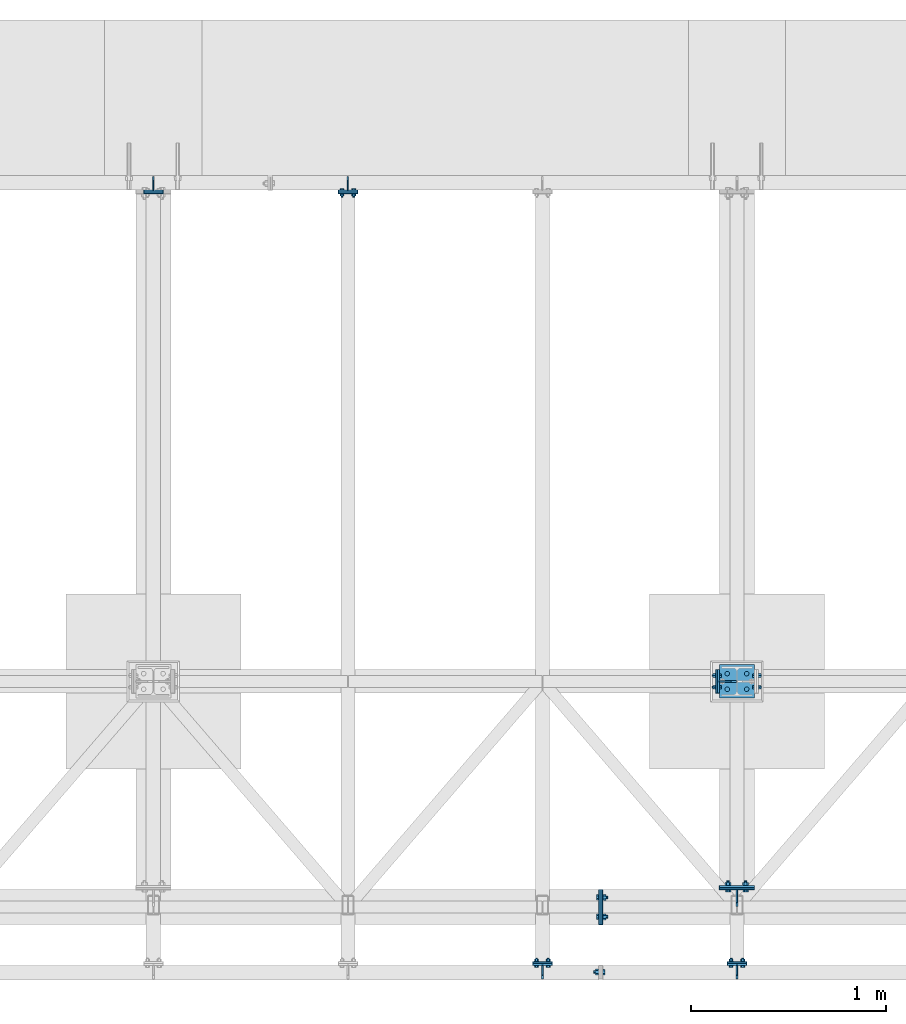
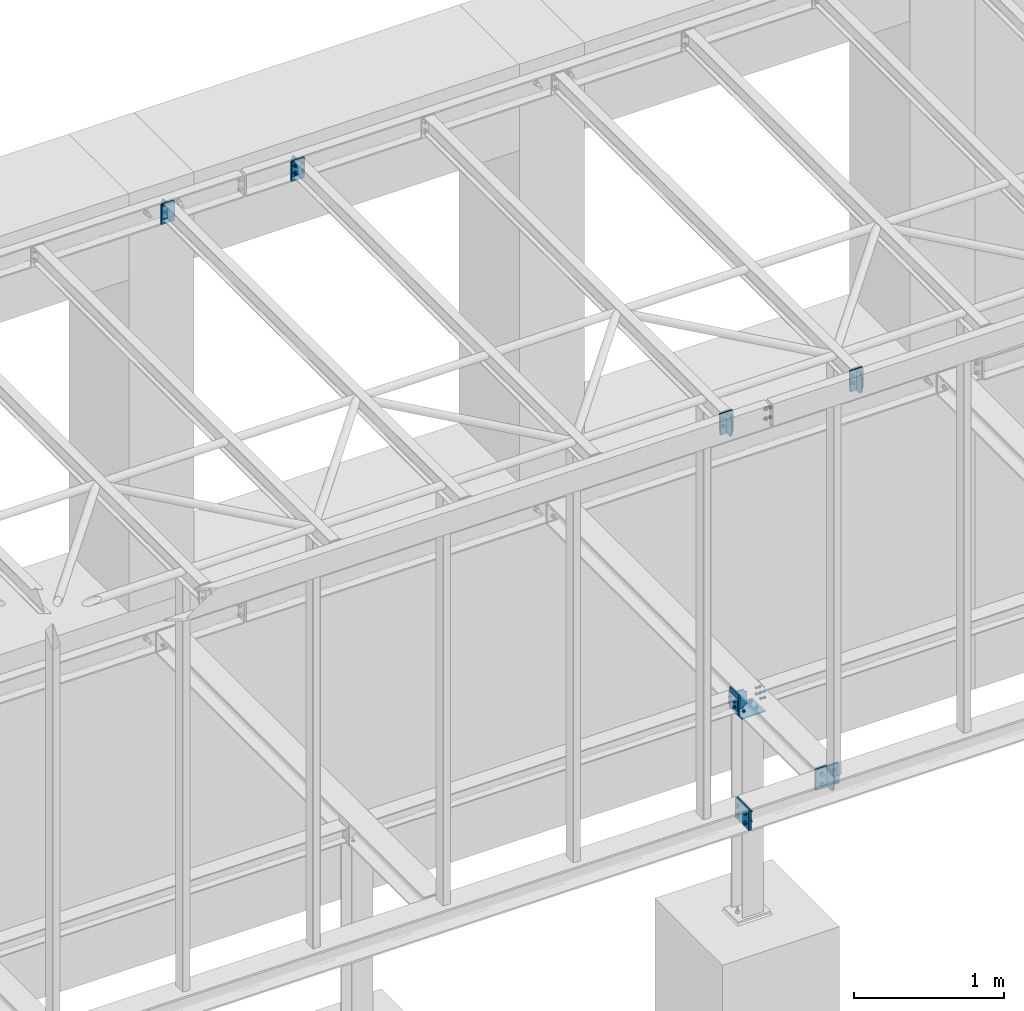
# One storey, part 16 of 23: 21 discrete accessories, 9 mechanical fasteners, 13 elements without a shape of their own.
"""IFC2X3 building model written with IfcOpenShell, lengths in millimetres."""

from ifc_helpers import new_model, si_unit, frame, frame_2d, origin_with_axes, origin_2d_with_axis, place, context, subcontext, project, spatial, polyline, circle_curve, parameter, trimmed, segment, composite_curve, circle, outline, extrude, source, transform, mapped, material, type_object, element, aggregate, save


model = new_model("IFC2X3")

# Units and contexts
model_context = context("Model", 3, precision=1e-05, world=origin_with_axes())
body_context = subcontext(model_context, "Body", "Model", "MODEL_VIEW")
ifc_project = project(units=[si_unit("LENGTHUNIT", "METRE", prefix="MILLI"), si_unit("AREAUNIT", "SQUARE_METRE"), si_unit("VOLUMEUNIT", "CUBIC_METRE"), si_unit("MASSUNIT", "GRAM", prefix="KILO"), si_unit("TIMEUNIT", "SECOND"), si_unit("PLANEANGLEUNIT", "RADIAN"), si_unit("SOLIDANGLEUNIT", "STERADIAN"), si_unit("THERMODYNAMICTEMPERATUREUNIT", "DEGREE_CELSIUS"), si_unit("LUMINOUSINTENSITYUNIT", "LUMEN")], contexts=[model_context])

# Site, building, storey
site_placement = place(None, origin_with_axes())
site = spatial("IfcSite", under=ifc_project, at=site_placement, Name="Undefined", CompositionType="ELEMENT")
building_placement = place(site_placement, origin_with_axes())
building = spatial("IfcBuilding", under=site, at=building_placement, Name="Undefined", CompositionType="ELEMENT")
storey_placement = place(building_placement, origin_with_axes())
storey = spatial("IfcBuildingStorey", under=building, at=storey_placement, Name="Undefined", CompositionType="ELEMENT", Elevation=0.0)

# Assembly, discrete accessory
assembly_1_placement = place(storey_placement, origin_with_axes())
assembly_1 = element("IfcElementAssembly", 1, at=assembly_1_placement, inside=storey, Name="Steel Assembly", AssemblyPlace="NOTDEFINED", PredefinedType="RIGID_FRAME")
ifc_material_1 = material(Name="STEEL/S235JR")
discrete_accessory_type_1 = type_object("IfcDiscreteAccessoryType", Name="PLECH")
discrete_accessory_1_placement = place(assembly_1_placement, frame((8345.0, 190.000000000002, -168.0), z_axis=(1.0, 0.0, 0.0), x_axis=(0.0, -1.0, 0.0)))
discrete_accessory_1 = element("IfcDiscreteAccessory", 2, at=discrete_accessory_1_placement, type_object=discrete_accessory_type_1, material=ifc_material_1, Name="PLECH", ObjectType="PL10*164", context=body_context, shape_type="SweptSolid", body=[
    extrude(outline(polyline([(0.0, 0.0), (180.0, 0.0), (180.0, 164.0), (0.0, 164.0), (0.0, 0.0)])), frame((0.0, 0.0, -5.0), z_axis=(0.0, 0.0, 1.0), x_axis=(1.0, 0.0, 0.0)), (0.0, 0.0, 1.0), 10.0),
])
aggregate(assembly_1, [discrete_accessory_1])

assembly_2_placement = place(storey_placement, origin_with_axes())
assembly_2 = element("IfcElementAssembly", 3, at=assembly_2_placement, inside=storey, Name="Steel Assembly", AssemblyPlace="NOTDEFINED", PredefinedType="RIGID_FRAME")
discrete_accessory_2_placement = place(assembly_2_placement, frame((8355.0, 190.000000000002, -168.0), z_axis=(1.0, 0.0, 0.0), x_axis=(0.0, -1.0, 0.0)))
discrete_accessory_2 = element("IfcDiscreteAccessory", 4, at=discrete_accessory_2_placement, type_object=discrete_accessory_type_1, material=ifc_material_1, Name="PLECH", ObjectType="PL10*164", context=body_context, shape_type="SweptSolid", body=[
    extrude(outline(polyline([(0.0, 0.0), (180.0, 0.0), (180.0, 164.0), (0.0, 164.0), (0.0, 0.0)])), frame((0.0, 0.0, -5.0), z_axis=(0.0, 0.0, 1.0), x_axis=(1.0, 0.0, 0.0)), (0.0, 0.0, 1.0), 10.0),
])

assembly_3_placement = place(storey_placement, origin_with_axes())
assembly_3 = element("IfcElementAssembly", 5, at=assembly_3_placement, inside=storey, Name="Steel Assembly", AssemblyPlace="NOTDEFINED", PredefinedType="RIGID_FRAME")
discrete_accessory_3_placement = place(assembly_3_placement, frame((9050.0, -200.0, 3289.5), z_axis=(1.0, 0.0, 0.0), x_axis=(0.0, -1.0, 0.0)))
discrete_accessory_3 = element("IfcDiscreteAccessory", 6, at=discrete_accessory_3_placement, type_object=discrete_accessory_type_1, material=ifc_material_1, Name="PLECH", ObjectType="PL8*70", context=body_context, shape_type="SweptSolid", body=[
    extrude(outline(composite_curve([segment(polyline([(0.0, 0.0), (49.5, 0.0)]), True, "CONTINUOUS"), segment(trimmed(circle_curve(frame_2d((69.5, 0.0), x_axis=(-1.0, 0.0)), 20.0), [parameter(0.0)], [parameter(4.71238898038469)], False, "PARAMETER"), True, "CONTINUOUS"), segment(polyline([(69.5, 20.0), (69.5, 139.0)]), True, "CONTINUOUS"), segment(trimmed(circle_curve(frame_2d((69.5, 159.0), x_axis=(0.0, -1.0)), 20.0), [parameter(0.0)], [parameter(4.71238898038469)], False, "PARAMETER"), True, "CONTINUOUS"), segment(polyline([(49.5, 159.0), (0.0, 159.0), (0.0, 0.0)]), True, "DISCONTINUOUS")], self_intersect=False)), frame((0.0, 0.0, -4.0), z_axis=(0.0, 0.0, 1.0), x_axis=(1.0, 0.0, 0.0)), (0.0, 0.0, 1.0), 8.0),
])

assembly_4_placement = place(storey_placement, origin_with_axes())
assembly_4 = element("IfcElementAssembly", 7, at=assembly_4_placement, inside=storey, Name="Steel Assembly", AssemblyPlace="NOTDEFINED", PredefinedType="RIGID_FRAME")
discrete_accessory_4_placement = place(assembly_4_placement, frame((9000.0, -185.0, 3166.5), z_axis=(0.0, 1.0, 0.0), x_axis=(0.0, 0.0, 1.0)))
discrete_accessory_4 = element("IfcDiscreteAccessory", 8, at=discrete_accessory_4_placement, type_object=discrete_accessory_type_1, material=ifc_material_1, Name="PLECH", ObjectType="PL10*100", context=body_context, shape_type="SweptSolid", body=[
    extrude(outline(polyline([(0.0, 0.0), (127.0, 0.0), (127.0, 100.0), (-9.09494701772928e-13, 100.0), (0.0, 0.0)])), frame((0.0, 0.0, -5.0), z_axis=(0.0, 0.0, 1.0), x_axis=(1.0, 0.0, 0.0)), (0.0, 0.0, 1.0), 10.0),
])
aggregate(assembly_4, [discrete_accessory_4])

# Discrete accessory
discrete_accessory_5_placement = place(assembly_3_placement, frame((9000.0, -195.0, 3127.5), z_axis=(0.0, 1.0, 0.0), x_axis=(0.0, 0.0, 1.0)))
discrete_accessory_5 = element("IfcDiscreteAccessory", 9, at=discrete_accessory_5_placement, type_object=discrete_accessory_type_1, material=ifc_material_1, Name="PLECH", ObjectType="PL10*100", context=body_context, shape_type="SweptSolid", body=[
    extrude(outline(polyline([(0.0, 0.0), (166.000015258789, 0.0), (166.000015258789, 100.0), (-9.09494701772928e-13, 100.0), (0.0, 0.0)])), frame((0.0, 0.0, -5.0), z_axis=(0.0, 0.0, 1.0), x_axis=(1.0, 0.0, 0.0)), (0.0, 0.0, 1.0), 10.0),
])

discrete_accessory_6_placement = place(assembly_3_placement, frame((8050.0, -200.0, 3289.5), z_axis=(1.0, 0.0, 0.0), x_axis=(0.0, -1.0, 0.0)))
discrete_accessory_6 = element("IfcDiscreteAccessory", 10, at=discrete_accessory_6_placement, type_object=discrete_accessory_type_1, material=ifc_material_1, Name="PLECH", ObjectType="PL8*70", context=body_context, shape_type="SweptSolid", body=[
    extrude(outline(composite_curve([segment(polyline([(0.0, 0.0), (49.5, 0.0)]), True, "CONTINUOUS"), segment(trimmed(circle_curve(frame_2d((69.5, 0.0), x_axis=(-1.0, 0.0)), 20.0), [parameter(0.0)], [parameter(4.71238898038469)], False, "PARAMETER"), True, "CONTINUOUS"), segment(polyline([(69.5, 20.0), (69.5, 139.0)]), True, "CONTINUOUS"), segment(trimmed(circle_curve(frame_2d((69.5, 159.0), x_axis=(0.0, -1.0)), 20.0), [parameter(0.0)], [parameter(4.71238898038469)], False, "PARAMETER"), True, "CONTINUOUS"), segment(polyline([(49.5, 159.0), (0.0, 159.0), (0.0, 0.0)]), True, "DISCONTINUOUS")], self_intersect=False)), frame((0.0, 0.0, -4.0), z_axis=(0.0, 0.0, 1.0), x_axis=(1.0, 0.0, 0.0)), (0.0, 0.0, 1.0), 8.0),
])

# Assembly, discrete accessory
assembly_5_placement = place(storey_placement, origin_with_axes())
assembly_5 = element("IfcElementAssembly", 11, at=assembly_5_placement, inside=storey, Name="Steel Assembly", AssemblyPlace="NOTDEFINED", PredefinedType="RIGID_FRAME")
discrete_accessory_7_placement = place(assembly_5_placement, frame((8000.0, -185.0, 3166.5), z_axis=(0.0, 1.0, 0.0), x_axis=(0.0, 0.0, 1.0)))
discrete_accessory_7 = element("IfcDiscreteAccessory", 12, at=discrete_accessory_7_placement, type_object=discrete_accessory_type_1, material=ifc_material_1, Name="PLECH", ObjectType="PL10*100", context=body_context, shape_type="SweptSolid", body=[
    extrude(outline(polyline([(0.0, 0.0), (127.0, 0.0), (127.0, 100.0), (-9.09494701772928e-13, 100.0), (0.0, 0.0)])), frame((0.0, 0.0, -5.0), z_axis=(0.0, 0.0, 1.0), x_axis=(1.0, 0.0, 0.0)), (0.0, 0.0, 1.0), 10.0),
])
aggregate(assembly_5, [discrete_accessory_7])

# Discrete accessory
discrete_accessory_8_placement = place(assembly_3_placement, frame((8000.0, -195.0, 3127.5), z_axis=(0.0, 1.0, 0.0), x_axis=(0.0, 0.0, 1.0)))
discrete_accessory_8 = element("IfcDiscreteAccessory", 13, at=discrete_accessory_8_placement, type_object=discrete_accessory_type_1, material=ifc_material_1, Name="PLECH", ObjectType="PL10*100", context=body_context, shape_type="SweptSolid", body=[
    extrude(outline(polyline([(0.0, 0.0), (166.000015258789, 0.0), (166.000015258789, 100.0), (-9.09494701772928e-13, 100.0), (0.0, 0.0)])), frame((0.0, 0.0, -5.0), z_axis=(0.0, 0.0, 1.0), x_axis=(1.0, 0.0, 0.0)), (0.0, 0.0, 1.0), 10.0),
])

# Assembly, discrete accessory
assembly_6_placement = place(storey_placement, origin_with_axes())
assembly_6 = element("IfcElementAssembly", 14, at=assembly_6_placement, inside=storey, Name="Steel Assembly", AssemblyPlace="NOTDEFINED", PredefinedType="RIGID_FRAME")
discrete_accessory_9_placement = place(assembly_6_placement, frame((9140.0, 1346.0, -345.0), z_axis=(0.0, 0.0, 1.0), x_axis=(-1.0, 0.0, 0.0)))
discrete_accessory_9 = element("IfcDiscreteAccessory", 15, at=discrete_accessory_9_placement, type_object=discrete_accessory_type_1, material=ifc_material_1, Name="PLECH", ObjectType="PL10*172", context=body_context, shape_type="SweptSolid", body=[
    extrude(outline(polyline([(0.0, 0.0), (180.0, 0.0), (180.0, 172.0), (0.0, 172.0), (0.0, 0.0)])), frame((0.0, 0.0, -5.0), z_axis=(0.0, 0.0, 1.0), x_axis=(1.0, 0.0, 0.0)), (0.0, 0.0, 1.0), 10.0),
])

# Discrete accessory
discrete_accessory_10_placement = place(assembly_2_placement, frame((8960.0, 195.0, -168.0), z_axis=(0.0, 1.0, 0.0), x_axis=(1.0, 0.0, 0.0)))
discrete_accessory_10 = element("IfcDiscreteAccessory", 16, at=discrete_accessory_10_placement, type_object=discrete_accessory_type_1, material=ifc_material_1, Name="PLECH", ObjectType="PL10*164", context=body_context, shape_type="SweptSolid", body=[
    extrude(outline(polyline([(0.0, 0.0), (180.0, 0.0), (180.0, 164.0), (0.0, 164.0), (0.0, 0.0)])), frame((0.0, 0.0, -5.0), z_axis=(0.0, 0.0, 1.0), x_axis=(1.0, 0.0, 0.0)), (0.0, 0.0, 1.0), 10.0),
])

discrete_accessory_11_placement = place(assembly_2_placement, frame((9050.0, 190.0, -174.0), z_axis=(1.0, 0.0, 0.0), x_axis=(0.0, -1.0, 0.0)))
discrete_accessory_11 = element("IfcDiscreteAccessory", 17, at=discrete_accessory_11_placement, type_object=discrete_accessory_type_1, material=ifc_material_1, Name="PLECH", ObjectType="PL8*86", context=body_context, shape_type="SweptSolid", body=[
    extrude(outline(composite_curve([segment(polyline([(0.0, 0.0), (65.75, 0.0)]), True, "CONTINUOUS"), segment(trimmed(circle_curve(frame_2d((85.75, 0.0), x_axis=(-1.0, 0.0)), 20.0), [parameter(0.0)], [parameter(4.71238898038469)], False, "PARAMETER"), True, "CONTINUOUS"), segment(polyline([(85.75, 20.0), (85.75, 132.0)]), True, "CONTINUOUS"), segment(trimmed(circle_curve(frame_2d((85.75, 152.0), x_axis=(0.0, -1.0)), 20.0), [parameter(0.0)], [parameter(4.71238898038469)], False, "PARAMETER"), True, "CONTINUOUS"), segment(polyline([(65.75, 152.0), (0.0, 152.0), (0.0, 0.0)]), True, "DISCONTINUOUS")], self_intersect=False)), frame((0.0, 0.0, -4.0), z_axis=(0.0, 0.0, 1.0), x_axis=(1.0, 0.0, 0.0)), (0.0, 0.0, 1.0), 8.0),
])

# Assembly, discrete accessories
assembly_7_placement = place(storey_placement, origin_with_axes())
assembly_7 = element("IfcElementAssembly", 18, at=assembly_7_placement, inside=storey, Name="Steel Assembly", AssemblyPlace="NOTDEFINED", PredefinedType="RIGID_FRAME")
discrete_accessory_12_placement = place(assembly_7_placement, frame((8960.0, 205.0, -168.0), z_axis=(0.0, 1.0, 0.0), x_axis=(1.0, 0.0, 0.0)))
discrete_accessory_12 = element("IfcDiscreteAccessory", 19, at=discrete_accessory_12_placement, type_object=discrete_accessory_type_1, material=ifc_material_1, Name="PLECH", ObjectType="PL10*164", context=body_context, shape_type="SweptSolid", body=[
    extrude(outline(polyline([(0.0, 0.0), (180.0, 0.0), (180.0, 164.0), (0.0, 164.0), (0.0, 0.0)])), frame((0.0, 0.0, -5.0), z_axis=(0.0, 0.0, 1.0), x_axis=(1.0, 0.0, 0.0)), (0.0, 0.0, 1.0), 10.0),
])
discrete_accessory_13_placement = place(assembly_7_placement, frame((8960.0, 1260.0, -174.0), z_axis=(0.0, 1.0, 0.0), x_axis=(1.0, 0.0, 0.0)))
discrete_accessory_13 = element("IfcDiscreteAccessory", 20, at=discrete_accessory_13_placement, type_object=discrete_accessory_type_1, material=ifc_material_1, Name="PLECH", ObjectType="PL8*86", context=body_context, shape_type="SweptSolid", body=[
    extrude(outline(composite_curve([segment(polyline([(0.0, 0.0), (60.5, 0.0)]), True, "CONTINUOUS"), segment(trimmed(circle_curve(frame_2d((85.5, 0.0), x_axis=(-1.0, 0.0)), 25.0), [parameter(0.0)], [parameter(4.71238898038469)], False, "PARAMETER"), True, "CONTINUOUS"), segment(polyline([(85.5, 25.0), (85.5, 127.0)]), True, "CONTINUOUS"), segment(trimmed(circle_curve(frame_2d((85.5, 152.0), x_axis=(0.0, -1.0)), 25.0), [parameter(0.0)], [parameter(4.71238898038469)], False, "PARAMETER"), True, "CONTINUOUS"), segment(polyline([(60.5, 152.0), (0.0, 152.0), (0.0, 0.0)]), True, "DISCONTINUOUS")], self_intersect=False)), frame((0.0, 0.0, -4.0), z_axis=(0.0, 0.0, 1.0), x_axis=(1.0, 0.0, 0.0)), (0.0, 0.0, 1.0), 8.0),
])

# Assembly, discrete accessory
assembly_8_placement = place(storey_placement, origin_with_axes())
assembly_8 = element("IfcElementAssembly", 21, at=assembly_8_placement, inside=storey, Name="Steel Assembly", AssemblyPlace="NOTDEFINED", PredefinedType="RIGID_FRAME")
discrete_accessory_14_placement = place(assembly_8_placement, frame((8945.0, 1200.0, -299.0), z_axis=(-1.0, 0.0, 0.0), x_axis=(0.0, 0.0, 1.0)))
discrete_accessory_14 = element("IfcDiscreteAccessory", 22, at=discrete_accessory_14_placement, type_object=discrete_accessory_type_1, material=ifc_material_1, Name="PLECH", ObjectType="PL10*98", context=body_context, shape_type="SweptSolid", body=[
    extrude(outline(polyline([(0.0, 0.0), (98.0, 4.54747350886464e-13), (98.0, 120.0), (0.0, 120.0), (0.0, 0.0)])), frame((0.0, 0.0, -5.0), z_axis=(0.0, 0.0, 1.0), x_axis=(1.0, 0.0, 0.0)), (0.0, 0.0, 1.0), 10.0),
])
aggregate(assembly_8, [discrete_accessory_14])

# Discrete accessory
discrete_accessory_15_placement = place(assembly_7_placement, frame((8955.0, 1200.0, -332.0), z_axis=(-1.0, 0.0, 0.0), x_axis=(0.0, 0.0, 1.0)))
discrete_accessory_15 = element("IfcDiscreteAccessory", 23, at=discrete_accessory_15_placement, type_object=discrete_accessory_type_1, material=ifc_material_1, Name="PLECH", ObjectType="PL10*120", context=body_context, shape_type="SweptSolid", body=[
    extrude(outline(polyline([(0.0, 0.0), (164.0, 4.54747350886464e-13), (164.0, 120.0), (0.0, 120.0), (0.0, 0.0)])), frame((0.0, 0.0, -5.0), z_axis=(0.0, 0.0, 1.0), x_axis=(1.0, 0.0, 0.0)), (0.0, 0.0, 1.0), 10.0),
])

# Assembly, discrete accessory
assembly_9_placement = place(storey_placement, origin_with_axes())
assembly_9 = element("IfcElementAssembly", 24, at=assembly_9_placement, inside=storey, Name="Steel Assembly", AssemblyPlace="NOTDEFINED", PredefinedType="RIGID_FRAME")
discrete_accessory_16_placement = place(assembly_9_placement, frame((7050.0, 3785.0, 3289.5), z_axis=(-1.0, 0.0, 0.0), x_axis=(0.0, 1.0, 0.0)))
discrete_accessory_16 = element("IfcDiscreteAccessory", 25, at=discrete_accessory_16_placement, type_object=discrete_accessory_type_1, material=ifc_material_1, Name="PLECH", ObjectType="PL6*70", context=body_context, shape_type="SweptSolid", body=[
    extrude(outline(composite_curve([segment(polyline([(0.0, 0.0), (49.5, 0.0)]), True, "CONTINUOUS"), segment(trimmed(circle_curve(frame_2d((69.5, 0.0), x_axis=(-1.0, 0.0)), 20.0), [parameter(0.0)], [parameter(4.71238898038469)], False, "PARAMETER"), True, "CONTINUOUS"), segment(polyline([(69.5, 20.0), (69.5, 139.0)]), True, "CONTINUOUS"), segment(trimmed(circle_curve(frame_2d((69.5, 159.0), x_axis=(0.0, -1.0)), 20.0), [parameter(0.0)], [parameter(4.71238898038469)], False, "PARAMETER"), True, "CONTINUOUS"), segment(polyline([(49.5, 159.0), (0.0, 159.0), (0.0, 0.0)]), True, "DISCONTINUOUS")], self_intersect=False)), frame((0.0, 0.0, -3.0), z_axis=(0.0, 0.0, 1.0), x_axis=(1.0, 0.0, 0.0)), (0.0, 0.0, 1.0), 6.0),
])

assembly_10_placement = place(storey_placement, origin_with_axes())
assembly_10 = element("IfcElementAssembly", 26, at=assembly_10_placement, inside=storey, Name="Steel Assembly", AssemblyPlace="NOTDEFINED", PredefinedType="RIGID_FRAME")
discrete_accessory_17_placement = place(assembly_10_placement, frame((7000.0, 3771.0, 3175.0), z_axis=(0.0, 1.0, 0.0), x_axis=(0.0, 0.0, 1.0)))
discrete_accessory_17 = element("IfcDiscreteAccessory", 27, at=discrete_accessory_17_placement, type_object=discrete_accessory_type_1, material=ifc_material_1, Name="PLECH", ObjectType="PL8*100", context=body_context, shape_type="SweptSolid", body=[
    extrude(outline(polyline([(0.0, 0.0), (110.0, 0.0), (110.0, 100.0), (-9.09494701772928e-13, 100.0), (0.0, 0.0)])), frame((0.0, 0.0, -4.0), z_axis=(0.0, 0.0, 1.0), x_axis=(1.0, 0.0, 0.0)), (0.0, 0.0, 1.0), 8.0),
])
aggregate(assembly_10, [discrete_accessory_17])

# Discrete accessory
discrete_accessory_18_placement = place(assembly_9_placement, frame((7000.0, 3780.0, 3128.0), z_axis=(0.0, 1.0, 0.0), x_axis=(0.0, 0.0, 1.0)))
discrete_accessory_18 = element("IfcDiscreteAccessory", 28, at=discrete_accessory_18_placement, type_object=discrete_accessory_type_1, material=ifc_material_1, Name="PLECH", ObjectType="PL10*100", context=body_context, shape_type="SweptSolid", body=[
    extrude(outline(polyline([(0.0, 0.0), (164.0, 4.54747350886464e-13), (164.0, 100.0), (-9.09494701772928e-13, 100.0), (0.0, 0.0)])), frame((0.0, 0.0, -5.0), z_axis=(0.0, 0.0, 1.0), x_axis=(1.0, 0.0, 0.0)), (0.0, 0.0, 1.0), 10.0),
])

# Assembly, discrete accessory
assembly_11_placement = place(storey_placement, origin_with_axes())
assembly_11 = element("IfcElementAssembly", 29, at=assembly_11_placement, inside=storey, Name="Steel Assembly", AssemblyPlace="NOTDEFINED", PredefinedType="RIGID_FRAME")
discrete_accessory_19_placement = place(assembly_11_placement, frame((6050.0, 3785.0, 3289.5), z_axis=(-1.0, 0.0, 0.0), x_axis=(0.0, 1.0, 0.0)))
discrete_accessory_19 = element("IfcDiscreteAccessory", 30, at=discrete_accessory_19_placement, type_object=discrete_accessory_type_1, material=ifc_material_1, Name="PLECH", ObjectType="PL6*70", context=body_context, shape_type="SweptSolid", body=[
    extrude(outline(composite_curve([segment(polyline([(0.0, 0.0), (49.5, 0.0)]), True, "CONTINUOUS"), segment(trimmed(circle_curve(frame_2d((69.5, 0.0), x_axis=(-1.0, 0.0)), 20.0), [parameter(0.0)], [parameter(4.71238898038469)], False, "PARAMETER"), True, "CONTINUOUS"), segment(polyline([(69.5, 20.0), (69.5, 139.0)]), True, "CONTINUOUS"), segment(trimmed(circle_curve(frame_2d((69.5, 159.0), x_axis=(0.0, -1.0)), 20.0), [parameter(0.0)], [parameter(4.71238898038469)], False, "PARAMETER"), True, "CONTINUOUS"), segment(polyline([(49.5, 159.0), (0.0, 159.0), (0.0, 0.0)]), True, "DISCONTINUOUS")], self_intersect=False)), frame((0.0, 0.0, -3.0), z_axis=(0.0, 0.0, 1.0), x_axis=(1.0, 0.0, 0.0)), (0.0, 0.0, 1.0), 6.0),
])

assembly_12_placement = place(storey_placement, origin_with_axes())
assembly_12 = element("IfcElementAssembly", 31, at=assembly_12_placement, inside=storey, Name="Steel Assembly", AssemblyPlace="NOTDEFINED", PredefinedType="RIGID_FRAME")
discrete_accessory_20_placement = place(assembly_12_placement, frame((6000.0, 3771.0, 3175.0), z_axis=(0.0, 1.0, 0.0), x_axis=(0.0, 0.0, 1.0)))
discrete_accessory_20 = element("IfcDiscreteAccessory", 32, at=discrete_accessory_20_placement, type_object=discrete_accessory_type_1, material=ifc_material_1, Name="PLECH", ObjectType="PL8*100", context=body_context, shape_type="SweptSolid", body=[
    extrude(outline(polyline([(0.0, 0.0), (110.0, 0.0), (110.0, 100.0), (-9.09494701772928e-13, 100.0), (0.0, 0.0)])), frame((0.0, 0.0, -4.0), z_axis=(0.0, 0.0, 1.0), x_axis=(1.0, 0.0, 0.0)), (0.0, 0.0, 1.0), 8.0),
])
aggregate(assembly_12, [discrete_accessory_20])

# Discrete accessory
discrete_accessory_21_placement = place(assembly_11_placement, frame((6000.0, 3780.0, 3128.0), z_axis=(0.0, 1.0, 0.0), x_axis=(0.0, 0.0, 1.0)))
discrete_accessory_21 = element("IfcDiscreteAccessory", 33, at=discrete_accessory_21_placement, type_object=discrete_accessory_type_1, material=ifc_material_1, Name="PLECH", ObjectType="PL10*100", context=body_context, shape_type="SweptSolid", body=[
    extrude(outline(polyline([(0.0, 0.0), (164.0, 4.54747350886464e-13), (164.0, 100.0), (-9.09494701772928e-13, 100.0), (0.0, 0.0)])), frame((0.0, 0.0, -5.0), z_axis=(0.0, 0.0, 1.0), x_axis=(1.0, 0.0, 0.0)), (0.0, 0.0, 1.0), 10.0),
])

aggregate(assembly_11, [discrete_accessory_19, discrete_accessory_21])

# Assembly, mechanical fastener
assembly_13_placement = place(storey_placement, origin_with_axes())
assembly_13 = element("IfcElementAssembly", 34, at=assembly_13_placement, inside=storey, Name="Steel Assembly", AssemblyPlace="NOTDEFINED", PredefinedType="RIGID_FRAME")
ifc_material_2 = material(Name="Undefined")
discrete_accessory_type_2 = type_object("IfcDiscreteAccessoryType", Name="Bolt assembly")
shared_shape_1 = source(origin_with_axes(), body_context, "Body", "SweptSolid", [
    extrude(circle(Radius=9.0, at=origin_2d_with_axis()), frame((0.0, -0.1, 0.0), z_axis=(0.0, 1.0, 0.0), x_axis=(1.0, 0.0, 0.0)), (0.0, 0.0, 1.0), 10.1),
    extrude(circle(Radius=9.0, at=origin_2d_with_axis()), frame((0.0, -9.9, 0.0), z_axis=(0.0, 1.0, 0.0), x_axis=(1.0, 0.0, 0.0)), (0.0, 0.0, 1.0), 10.0),
    extrude(outline(polyline([(13.85640646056, 0.0), (6.92820323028, 12.0000000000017), (-6.92820323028, 12.0000000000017), (-13.85640646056, 0.0), (-6.92820323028, -12.0000000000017), (6.92820323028, -12.0000000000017), (13.85640646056, 0.0)])), frame((0.0, -23.0, 0.0), z_axis=(0.0, 1.0, 0.0), x_axis=(1.0, 0.0, 0.0)), (0.0, 0.0, 1.0), 10.0),
    extrude(circle(Radius=8.0, at=origin_2d_with_axis()), frame((0.0, -13.0, 0.0), z_axis=(0.0, 1.0, 0.0), x_axis=(1.0, 0.0, 0.0)), (0.0, 0.0, 1.0), 50.0),
    extrude(circle(Radius=15.0, at=origin_2d_with_axis()), frame((0.0, -13.0, 0.0), z_axis=(0.0, 1.0, 0.0), x_axis=(1.0, 0.0, 0.0)), (0.0, 0.0, 1.0), 3.0),
    extrude(circle(Radius=15.0, at=origin_2d_with_axis()), frame((0.0, 10.0, 0.0), z_axis=(0.0, 1.0, 0.0), x_axis=(1.0, 0.0, 0.0)), (0.0, 0.0, 1.0), 3.0),
    extrude(outline(polyline([(15.4441197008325, 0.0), (7.72205985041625, 13.3750000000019), (-7.72205985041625, 13.3750000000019), (-15.4441197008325, 0.0), (-7.72205985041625, -13.3750000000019), (7.72205985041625, -13.3750000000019), (15.4441197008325, 0.0)])), frame((0.0, 13.0, 0.0), z_axis=(0.0, 1.0, 0.0), x_axis=(1.0, 0.0, 0.0)), (0.0, 0.0, 1.0), 13.0),
])
mechanical_fastener_1_placement = place(assembly_13_placement, frame((8350.0, -234.499999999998, 3210.0), z_axis=(0.0, 0.0, 1.0), x_axis=(0.0, 1.0, 0.0)))
mechanical_fastener_1 = element("IfcMechanicalFastener", 35, at=mechanical_fastener_1_placement, type_object=discrete_accessory_type_2, material=ifc_material_2, Name="Bolt assembly", NominalDiameter=16.0, NominalLength=50.0, context=body_context, shape_type="MappedRepresentation", body=[
    mapped(shared_shape_1, transform((0.0, 0.0, -40.0))),
    mapped(shared_shape_1, transform((0.0, 0.0, 40.0))),
])
aggregate(assembly_13, [mechanical_fastener_1])

# Mechanical fastener
mechanical_fastener_2_placement = place(assembly_2_placement, frame((9005.0, 200.0, -250.0), z_axis=(0.0, 0.0, 1.0), x_axis=(1.0, 0.0, 0.0)))
mechanical_fastener_2 = element("IfcMechanicalFastener", 36, at=mechanical_fastener_2_placement, type_object=discrete_accessory_type_2, material=ifc_material_2, Name="Bolt assembly", NominalDiameter=16.0, NominalLength=50.0, context=body_context, shape_type="MappedRepresentation", body=[
    mapped(shared_shape_1, transform((0.0, 0.0, -40.0))),
    mapped(shared_shape_1, transform((90.0, 0.0, -40.0))),
    mapped(shared_shape_1, transform((0.0, 0.0, 40.0))),
    mapped(shared_shape_1, transform((90.0, 0.0, 40.0))),
])

shared_shape_2 = source(origin_with_axes(), body_context, "Body", "SweptSolid", [
    extrude(circle(Radius=6.5, at=origin_2d_with_axis()), frame((0.0, -13.9, 0.0), z_axis=(0.0, 1.0, 0.0), x_axis=(1.0, 0.0, 0.0)), (0.0, 0.0, 1.0), 14.0),
    extrude(circle(Radius=6.5, at=origin_2d_with_axis()), frame((0.0, -0.1, 0.0), z_axis=(0.0, 1.0, 0.0), x_axis=(1.0, 0.0, 0.0)), (0.0, 0.0, 1.0), 10.1),
    extrude(outline(polyline([(10.39230484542, 0.0), (5.19615242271, 9.00000000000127), (-5.19615242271, 9.00000000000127), (-10.39230484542, 0.0), (-5.19615242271, -9.00000000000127), (5.19615242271, -9.00000000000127), (10.39230484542, 0.0)])), frame((0.0, -24.0, 0.0), z_axis=(0.0, 1.0, 0.0), x_axis=(1.0, 0.0, 0.0)), (0.0, 0.0, 1.0), 7.5),
    extrude(circle(Radius=6.0, at=origin_2d_with_axis()), frame((0.0, -16.5, 0.0), z_axis=(0.0, 1.0, 0.0), x_axis=(1.0, 0.0, 0.0)), (0.0, 0.0, 1.0), 45.0),
    extrude(circle(Radius=12.0, at=origin_2d_with_axis()), frame((0.0, -16.5, 0.0), z_axis=(0.0, 1.0, 0.0), x_axis=(1.0, 0.0, 0.0)), (0.0, 0.0, 1.0), 2.5),
    extrude(circle(Radius=12.0, at=origin_2d_with_axis()), frame((0.0, 10.0, 0.0), z_axis=(0.0, 1.0, 0.0), x_axis=(1.0, 0.0, 0.0)), (0.0, 0.0, 1.0), 2.5),
    extrude(outline(polyline([(10.96965511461, 0.0), (5.484827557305, 9.50000000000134), (-5.484827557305, 9.50000000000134), (-10.96965511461, 0.0), (-5.484827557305, -9.50000000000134), (5.484827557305, -9.50000000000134), (10.96965511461, 0.0)])), frame((0.0, 12.5, 0.0), z_axis=(0.0, 1.0, 0.0), x_axis=(1.0, 0.0, 0.0)), (0.0, 0.0, 1.0), 10.0),
])
mechanical_fastener_3_placement = place(assembly_6_placement, frame((9000.0, 1260.0, -340.0), z_axis=(0.0, 1.0, 0.0), x_axis=(1.0, 0.0, 0.0)))
mechanical_fastener_3 = element("IfcMechanicalFastener", 37, at=mechanical_fastener_3_placement, type_object=discrete_accessory_type_2, material=ifc_material_2, Name="Bolt assembly", NominalDiameter=12.0, NominalLength=45.0, context=body_context, shape_type="MappedRepresentation", body=[
    mapped(shared_shape_2, transform((0.0, 0.0, -40.0))),
    mapped(shared_shape_2, transform((100.0, 0.0, -40.0))),
    mapped(shared_shape_2, transform((0.0, 0.0, 40.0))),
    mapped(shared_shape_2, transform((100.0, 0.0, 40.0))),
])

aggregate(assembly_6, [mechanical_fastener_3, discrete_accessory_9])

shared_shape_3 = source(origin_with_axes(), body_context, "Body", "SweptSolid", [
    extrude(circle(Radius=9.0, at=origin_2d_with_axis()), frame((0.0, -9.9, 0.0), z_axis=(0.0, 1.0, 0.0), x_axis=(1.0, 0.0, 0.0)), (0.0, 0.0, 1.0), 10.0),
    extrude(circle(Radius=9.0, at=origin_2d_with_axis()), frame((0.0, -0.1, 0.0), z_axis=(0.0, 1.0, 0.0), x_axis=(1.0, 0.0, 0.0)), (0.0, 0.0, 1.0), 10.1),
    extrude(outline(polyline([(13.85640646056, 0.0), (6.92820323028, 12.0000000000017), (-6.92820323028, 12.0000000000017), (-13.85640646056, 0.0), (-6.92820323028, -12.0000000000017), (6.92820323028, -12.0000000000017), (13.85640646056, 0.0)])), frame((0.0, -23.0, 0.0), z_axis=(0.0, 1.0, 0.0), x_axis=(1.0, 0.0, 0.0)), (0.0, 0.0, 1.0), 10.0),
    extrude(circle(Radius=8.0, at=origin_2d_with_axis()), frame((0.0, -13.0, 0.0), z_axis=(0.0, 1.0, 0.0), x_axis=(1.0, 0.0, 0.0)), (0.0, 0.0, 1.0), 50.0),
    extrude(circle(Radius=15.0, at=origin_2d_with_axis()), frame((0.0, -13.0, 0.0), z_axis=(0.0, 1.0, 0.0), x_axis=(1.0, 0.0, 0.0)), (0.0, 0.0, 1.0), 3.0),
    extrude(circle(Radius=15.0, at=origin_2d_with_axis()), frame((0.0, 10.0, 0.0), z_axis=(0.0, 1.0, 0.0), x_axis=(1.0, 0.0, 0.0)), (0.0, 0.0, 1.0), 3.0),
    extrude(outline(polyline([(15.4441197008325, 0.0), (7.72205985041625, 13.3750000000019), (-7.72205985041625, 13.3750000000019), (-15.4441197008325, 0.0), (-7.72205985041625, -13.3750000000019), (7.72205985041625, -13.3750000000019), (15.4441197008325, 0.0)])), frame((0.0, 13.0, 0.0), z_axis=(0.0, 1.0, 0.0), x_axis=(1.0, 0.0, 0.0)), (0.0, 0.0, 1.0), 13.0),
])
mechanical_fastener_4_placement = place(assembly_2_placement, frame((8350.0, 150.0, -250.0), z_axis=(0.0, 0.0, 1.0), x_axis=(0.0, -1.0, 0.0)))
mechanical_fastener_4 = element("IfcMechanicalFastener", 38, at=mechanical_fastener_4_placement, type_object=discrete_accessory_type_2, material=ifc_material_2, Name="Bolt assembly", NominalDiameter=16.0, NominalLength=50.0, context=body_context, shape_type="MappedRepresentation", body=[
    mapped(shared_shape_3, transform((0.0, 0.0, -40.0))),
    mapped(shared_shape_3, transform((100.0, 0.0, -40.0))),
    mapped(shared_shape_3, transform((0.0, 0.0, 40.0))),
    mapped(shared_shape_3, transform((100.0, 0.0, 40.0))),
])

aggregate(assembly_2, [mechanical_fastener_4, discrete_accessory_2, mechanical_fastener_2, discrete_accessory_10, discrete_accessory_11])

shared_shape_4 = source(origin_with_axes(), body_context, "Body", "SweptSolid", [
    extrude(circle(Radius=6.5, at=origin_2d_with_axis()), frame((0.0, -0.1, 0.0), z_axis=(0.0, 1.0, 0.0), x_axis=(1.0, 0.0, 0.0)), (0.0, 0.0, 1.0), 10.1),
    extrude(circle(Radius=6.5, at=origin_2d_with_axis()), frame((0.0, -9.9, 0.0), z_axis=(0.0, 1.0, 0.0), x_axis=(1.0, 0.0, 0.0)), (0.0, 0.0, 1.0), 10.0),
    extrude(outline(polyline([(10.96965511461, 0.0), (5.484827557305, 9.50000000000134), (-5.484827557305, 9.50000000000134), (-10.96965511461, 0.0), (-5.484827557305, -9.50000000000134), (5.484827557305, -9.50000000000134), (10.96965511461, 0.0)])), frame((0.0, -20.0, 0.0), z_axis=(0.0, 1.0, 0.0), x_axis=(1.0, 0.0, 0.0)), (0.0, 0.0, 1.0), 7.5),
    extrude(circle(Radius=6.0, at=origin_2d_with_axis()), frame((0.0, -12.5, 0.0), z_axis=(0.0, 1.0, 0.0), x_axis=(1.0, 0.0, 0.0)), (0.0, 0.0, 1.0), 40.0),
    extrude(circle(Radius=12.0, at=origin_2d_with_axis()), frame((0.0, -12.5, 0.0), z_axis=(0.0, 1.0, 0.0), x_axis=(1.0, 0.0, 0.0)), (0.0, 0.0, 1.0), 2.5),
    extrude(circle(Radius=12.0, at=origin_2d_with_axis()), frame((0.0, 10.0, 0.0), z_axis=(0.0, 1.0, 0.0), x_axis=(1.0, 0.0, 0.0)), (0.0, 0.0, 1.0), 2.5),
    extrude(outline(polyline([(10.96965511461, 0.0), (5.484827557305, 9.50000000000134), (-5.484827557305, 9.50000000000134), (-10.96965511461, 0.0), (-5.484827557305, -9.50000000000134), (5.484827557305, -9.50000000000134), (10.96965511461, 0.0)])), frame((0.0, 12.5, 0.0), z_axis=(0.0, 1.0, 0.0), x_axis=(1.0, 0.0, 0.0)), (0.0, 0.0, 1.0), 10.0),
])
mechanical_fastener_5_placement = place(assembly_3_placement, frame((9020.0, -190.0, 3230.0), z_axis=(0.0, 0.0, 1.0), x_axis=(1.0, 0.0, 0.0)))
mechanical_fastener_5 = element("IfcMechanicalFastener", 39, at=mechanical_fastener_5_placement, type_object=discrete_accessory_type_2, material=ifc_material_2, Name="Bolt assembly", NominalDiameter=12.0, NominalLength=40.0, context=body_context, shape_type="MappedRepresentation", body=[
    mapped(shared_shape_4, transform((0.0, 0.0, 30.0))),
    mapped(shared_shape_4, transform((60.0, 0.0, 30.0))),
    mapped(shared_shape_4, transform((0.0, 0.0, -30.0))),
    mapped(shared_shape_4, transform((60.0, 0.0, -30.0))),
])

mechanical_fastener_6_placement = place(assembly_3_placement, frame((8020.0, -190.0, 3230.0), z_axis=(0.0, 0.0, 1.0), x_axis=(1.0, 0.0, 0.0)))
mechanical_fastener_6 = element("IfcMechanicalFastener", 40, at=mechanical_fastener_6_placement, type_object=discrete_accessory_type_2, material=ifc_material_2, Name="Bolt assembly", NominalDiameter=12.0, NominalLength=40.0, context=body_context, shape_type="MappedRepresentation", body=[
    mapped(shared_shape_4, transform((0.0, 0.0, 30.0))),
    mapped(shared_shape_4, transform((60.0, 0.0, 30.0))),
    mapped(shared_shape_4, transform((0.0, 0.0, -30.0))),
    mapped(shared_shape_4, transform((60.0, 0.0, -30.0))),
])

aggregate(assembly_3, [mechanical_fastener_5, discrete_accessory_3, discrete_accessory_5, mechanical_fastener_6, discrete_accessory_6, discrete_accessory_8])

shared_shape_5 = source(origin_with_axes(), body_context, "Body", "SweptSolid", [
    extrude(circle(Radius=6.5, at=origin_2d_with_axis()), frame((0.0, -4.1, 0.0), z_axis=(0.0, 1.0, 0.0), x_axis=(1.0, 0.0, 0.0)), (0.0, 0.0, 1.0), 10.1),
    extrude(circle(Radius=6.5, at=origin_2d_with_axis()), frame((0.0, -13.9, 0.0), z_axis=(0.0, 1.0, 0.0), x_axis=(1.0, 0.0, 0.0)), (0.0, 0.0, 1.0), 10.0),
    extrude(outline(polyline([(10.39230484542, 0.0), (5.19615242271, 9.00000000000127), (-5.19615242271, 9.00000000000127), (-10.39230484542, 0.0), (-5.19615242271, -9.00000000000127), (5.19615242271, -9.00000000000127), (10.39230484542, 0.0)])), frame((0.0, -24.0, 0.0), z_axis=(0.0, 1.0, 0.0), x_axis=(1.0, 0.0, 0.0)), (0.0, 0.0, 1.0), 7.5),
    extrude(circle(Radius=6.0, at=origin_2d_with_axis()), frame((0.0, -16.5, 0.0), z_axis=(0.0, 1.0, 0.0), x_axis=(1.0, 0.0, 0.0)), (0.0, 0.0, 1.0), 40.0),
    extrude(circle(Radius=12.0, at=origin_2d_with_axis()), frame((0.0, -16.5, 0.0), z_axis=(0.0, 1.0, 0.0), x_axis=(1.0, 0.0, 0.0)), (0.0, 0.0, 1.0), 2.5),
    extrude(circle(Radius=12.0, at=origin_2d_with_axis()), frame((0.0, 6.0, 0.0), z_axis=(0.0, 1.0, 0.0), x_axis=(1.0, 0.0, 0.0)), (0.0, 0.0, 1.0), 2.5),
    extrude(outline(polyline([(10.96965511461, 0.0), (5.484827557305, 9.50000000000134), (-5.484827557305, 9.50000000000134), (-10.96965511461, 0.0), (-5.484827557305, -9.50000000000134), (5.484827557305, -9.50000000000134), (10.96965511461, 0.0)])), frame((0.0, 8.5, 0.0), z_axis=(0.0, 1.0, 0.0), x_axis=(1.0, 0.0, 0.0)), (0.0, 0.0, 1.0), 10.0),
])
mechanical_fastener_7_placement = place(assembly_7_placement, frame((9154.0, 1260.0, -225.0), z_axis=(0.0, -1.0, 0.0), x_axis=(0.0, 0.0, -1.0)))
mechanical_fastener_7 = element("IfcMechanicalFastener", 41, at=mechanical_fastener_7_placement, type_object=discrete_accessory_type_2, material=ifc_material_2, Name="Bolt assembly", NominalDiameter=12.0, NominalLength=40.0, context=body_context, shape_type="MappedRepresentation", body=[
    mapped(shared_shape_5, transform((0.0, 0.0, 30.0))),
    mapped(shared_shape_5, transform((50.0, 0.0, 30.0))),
    mapped(shared_shape_5, transform((0.0, 0.0, -30.0))),
    mapped(shared_shape_5, transform((50.0, 0.0, -30.0))),
])

mechanical_fastener_8_placement = place(assembly_7_placement, frame((8946.0, 1260.0, -225.0), z_axis=(0.0, 1.0, 0.0), x_axis=(0.0, 0.0, -1.0)))
mechanical_fastener_8 = element("IfcMechanicalFastener", 42, at=mechanical_fastener_8_placement, type_object=discrete_accessory_type_2, material=ifc_material_2, Name="Bolt assembly", NominalDiameter=12.0, NominalLength=40.0, context=body_context, shape_type="MappedRepresentation", body=[
    mapped(shared_shape_5, transform((0.0, 0.0, -30.0))),
    mapped(shared_shape_5, transform((50.0, 0.0, -30.0))),
    mapped(shared_shape_5, transform((0.0, 0.0, 30.0))),
    mapped(shared_shape_5, transform((50.0, 0.0, 30.0))),
])

aggregate(assembly_7, [discrete_accessory_12, discrete_accessory_13, mechanical_fastener_7, mechanical_fastener_8, discrete_accessory_15])

shared_shape_6 = source(origin_with_axes(), body_context, "Body", "SweptSolid", [
    extrude(circle(Radius=6.5, at=origin_2d_with_axis()), frame((0.0, -0.1, 0.0), z_axis=(0.0, 1.0, 0.0), x_axis=(1.0, 0.0, 0.0)), (0.0, 0.0, 1.0), 8.1),
    extrude(circle(Radius=6.5, at=origin_2d_with_axis()), frame((0.0, -9.9, 0.0), z_axis=(0.0, 1.0, 0.0), x_axis=(1.0, 0.0, 0.0)), (0.0, 0.0, 1.0), 10.0),
    extrude(outline(polyline([(10.96965511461, 0.0), (5.484827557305, 9.50000000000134), (-5.484827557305, 9.50000000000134), (-10.96965511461, 0.0), (-5.484827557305, -9.50000000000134), (5.484827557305, -9.50000000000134), (10.96965511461, 0.0)])), frame((0.0, -20.0, 0.0), z_axis=(0.0, 1.0, 0.0), x_axis=(1.0, 0.0, 0.0)), (0.0, 0.0, 1.0), 7.5),
    extrude(circle(Radius=6.0, at=origin_2d_with_axis()), frame((0.0, -12.5, 0.0), z_axis=(0.0, 1.0, 0.0), x_axis=(1.0, 0.0, 0.0)), (0.0, 0.0, 1.0), 40.0),
    extrude(circle(Radius=12.0, at=origin_2d_with_axis()), frame((0.0, -12.5, 0.0), z_axis=(0.0, 1.0, 0.0), x_axis=(1.0, 0.0, 0.0)), (0.0, 0.0, 1.0), 2.5),
    extrude(circle(Radius=12.0, at=origin_2d_with_axis()), frame((0.0, 8.0, 0.0), z_axis=(0.0, 1.0, 0.0), x_axis=(1.0, 0.0, 0.0)), (0.0, 0.0, 1.0), 2.5),
    extrude(outline(polyline([(10.96965511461, 0.0), (5.484827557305, 9.50000000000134), (-5.484827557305, 9.50000000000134), (-10.96965511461, 0.0), (-5.484827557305, -9.50000000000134), (5.484827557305, -9.50000000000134), (10.96965511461, 0.0)])), frame((0.0, 10.5, 0.0), z_axis=(0.0, 1.0, 0.0), x_axis=(1.0, 0.0, 0.0)), (0.0, 0.0, 1.0), 10.0),
])
mechanical_fastener_9_placement = place(assembly_9_placement, frame((7020.0, 3775.0, 3230.0), z_axis=(0.0, 0.0, -1.0), x_axis=(1.0, 0.0, 0.0)))
mechanical_fastener_9 = element("IfcMechanicalFastener", 43, at=mechanical_fastener_9_placement, type_object=discrete_accessory_type_2, material=ifc_material_2, Name="Bolt assembly", NominalDiameter=12.0, NominalLength=40.0, context=body_context, shape_type="MappedRepresentation", body=[
    mapped(shared_shape_6, transform((0.0, 0.0, -30.0))),
    mapped(shared_shape_6, transform((60.0, 0.0, -30.0))),
    mapped(shared_shape_6, transform((0.0, 0.0, 30.0))),
    mapped(shared_shape_6, transform((60.0, 0.0, 30.0))),
])

aggregate(assembly_9, [mechanical_fastener_9, discrete_accessory_16, discrete_accessory_18])

save(model, "model.ifc")
